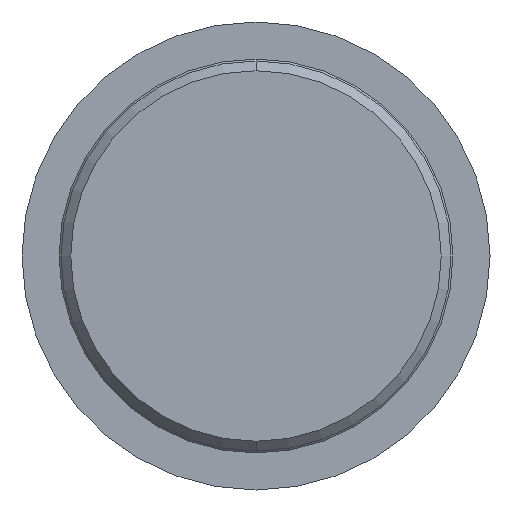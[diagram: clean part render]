
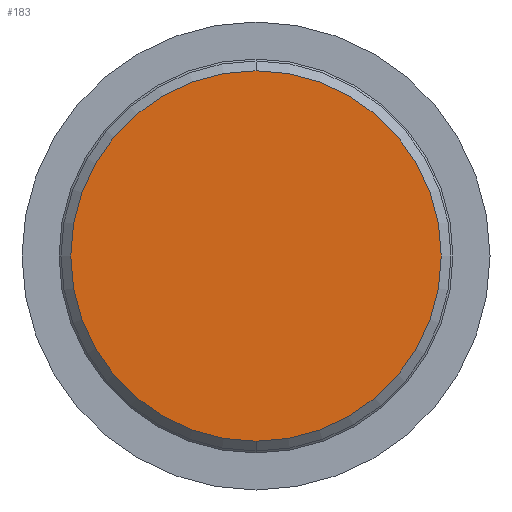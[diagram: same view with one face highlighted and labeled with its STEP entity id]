
A CAD part, front view. The second image highlights one B-rep face of the part: STEP entity #183.
In plain terms, the highlighted planar face has unit normal (0, -1, 0).
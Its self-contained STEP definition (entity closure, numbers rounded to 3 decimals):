
#25 = ORIENTED_EDGE ( 'NONE', *, *, #44, .F. ) ;
#40 = DIRECTION ( 'NONE',  ( 0., 0., 1. ) ) ;
#44 = EDGE_CURVE ( 'NONE', #208, #152, #339, .T. ) ;
#60 = CARTESIAN_POINT ( 'NONE',  ( 14.25, 0., 0. ) ) ;
#91 = AXIS2_PLACEMENT_3D ( 'NONE', #394, #698, #40 ) ;
#152 = VERTEX_POINT ( 'NONE', #716 ) ;
#156 = CIRCLE ( 'NONE', #225, 14.25 ) ;
#183 = ADVANCED_FACE ( 'NONE', ( #196 ), #594, .F. ) ;
#196 = FACE_OUTER_BOUND ( 'NONE', #243, .T. ) ;
#208 = VERTEX_POINT ( 'NONE', #544 ) ;
#220 = ORIENTED_EDGE ( 'NONE', *, *, #239, .F. ) ;
#225 = AXIS2_PLACEMENT_3D ( 'NONE', #674, #375, #610 ) ;
#239 = EDGE_CURVE ( 'NONE', #152, #208, #156, .T. ) ;
#243 = EDGE_LOOP ( 'NONE', ( #220, #25 ) ) ;
#284 = DIRECTION ( 'NONE',  ( 0., 1., 0. ) ) ;
#302 = AXIS2_PLACEMENT_3D ( 'NONE', #60, #284, #519 ) ;
#339 = CIRCLE ( 'NONE', #91, 14.25 ) ;
#375 = DIRECTION ( 'NONE',  ( 0., 1., 0. ) ) ;
#394 = CARTESIAN_POINT ( 'NONE',  ( 0., 0., 0. ) ) ;
#519 = DIRECTION ( 'NONE',  ( 0., 0., 1. ) ) ;
#544 = CARTESIAN_POINT ( 'NONE',  ( 0., 0., -14.25 ) ) ;
#594 = PLANE ( 'NONE',  #302 ) ;
#610 = DIRECTION ( 'NONE',  ( 0., 0., 1. ) ) ;
#674 = CARTESIAN_POINT ( 'NONE',  ( 0., 0., 0. ) ) ;
#698 = DIRECTION ( 'NONE',  ( 0., 1., 0. ) ) ;
#716 = CARTESIAN_POINT ( 'NONE',  ( 0., 0., 14.25 ) ) ;
